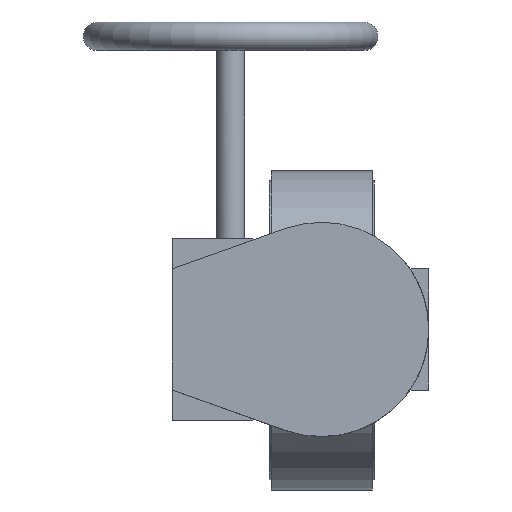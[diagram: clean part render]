
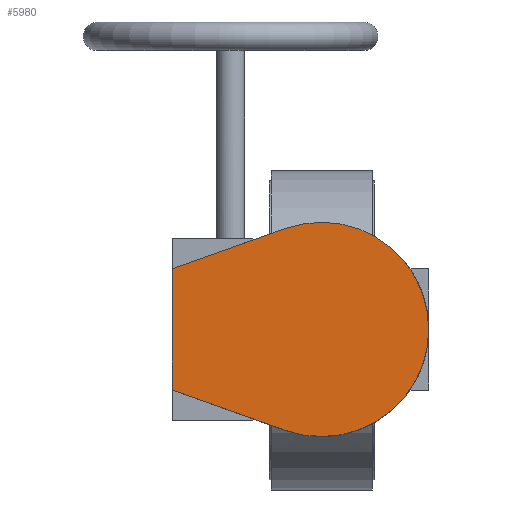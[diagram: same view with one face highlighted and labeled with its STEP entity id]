
A CAD part, top view. The second image highlights one B-rep face of the part: STEP entity #5980.
In plain terms, the highlighted planar face has unit normal (0, 0, 1).
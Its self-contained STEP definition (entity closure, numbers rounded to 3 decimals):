
#5980=ADVANCED_FACE('',(#11725),#11727,.T.);
#11725=FACE_BOUND('',#11726,.T.);
#11726=EDGE_LOOP('',(#15619,#15620,#15621,#15622));
#11727=PLANE('',#11728);
#11728=AXIS2_PLACEMENT_3D('',#11729,#11730,#11731);
#11729=CARTESIAN_POINT('',(0.,0.,245.));
#11730=DIRECTION('',(0.,0.,1.));
#11731=DIRECTION('',(0.,1.,0.));
#15619=ORIENTED_EDGE('',*,*,#17589,.T.);
#15620=ORIENTED_EDGE('',*,*,#17585,.T.);
#15621=ORIENTED_EDGE('',*,*,#17578,.T.);
#15622=ORIENTED_EDGE('',*,*,#17573,.T.);
#17573=EDGE_CURVE('',#20736,#20734,#20737,.T.);
#17578=EDGE_CURVE('',#20744,#20736,#20745,.T.);
#17585=EDGE_CURVE('',#20757,#20744,#20758,.T.);
#17589=EDGE_CURVE('',#20734,#20757,#20763,.T.);
#20734=VERTEX_POINT('',#30067);
#20736=VERTEX_POINT('',#30071);
#20737=LINE('',#30072,#30073);
#20744=VERTEX_POINT('',#30089);
#20745=LINE('',#30090,#30091);
#20757=VERTEX_POINT('',#30116);
#20758=LINE('',#30117,#30118);
#20763=CIRCLE('',#30130,53.);
#30067=CARTESIAN_POINT('',(-17.708,-49.954,245.));
#30071=CARTESIAN_POINT('',(-74.,-30.,245.));
#30072=CARTESIAN_POINT('',(-74.,-30.,245.));
#30073=VECTOR('',#30074,1.);
#30074=DIRECTION('',(0.943,-0.334,0.));
#30089=CARTESIAN_POINT('',(-74.,30.,245.));
#30090=CARTESIAN_POINT('',(-74.,30.,245.));
#30091=VECTOR('',#30092,1.);
#30092=DIRECTION('',(0.,-1.,0.));
#30116=CARTESIAN_POINT('',(-17.708,49.954,245.));
#30117=CARTESIAN_POINT('',(-17.708,49.954,245.));
#30118=VECTOR('',#30119,1.);
#30119=DIRECTION('',(-0.943,-0.334,0.));
#30130=AXIS2_PLACEMENT_3D('',#30131,#30132,#30133);
#30131=CARTESIAN_POINT('',(0.,0.,245.));
#30132=DIRECTION('',(0.,0.,1.));
#30133=DIRECTION('',(-0.334,-0.943,0.));
